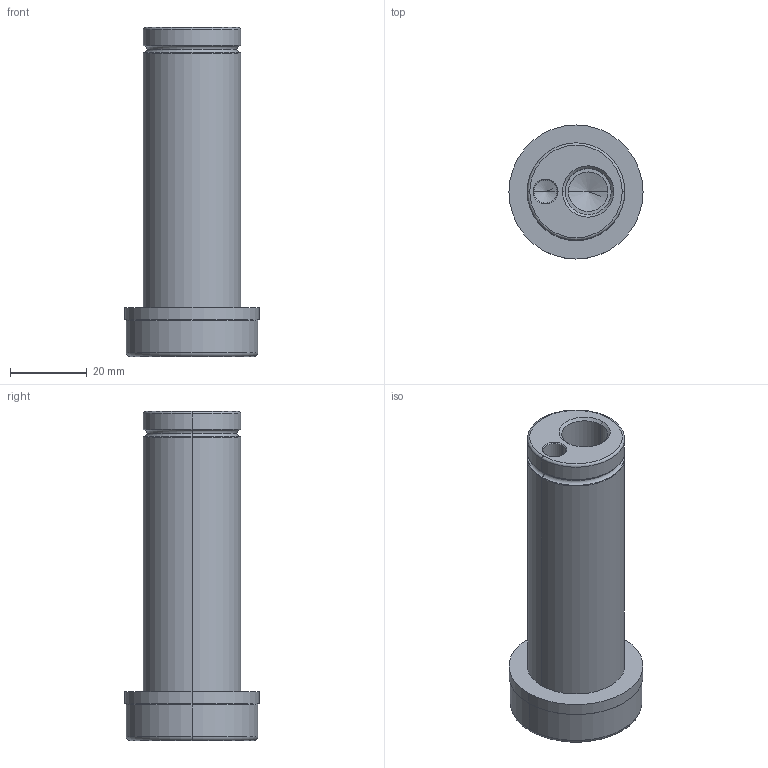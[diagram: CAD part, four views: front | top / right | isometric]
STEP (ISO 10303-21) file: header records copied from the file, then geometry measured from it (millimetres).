
FILE_DESCRIPTION (( 'STEP AP214' ), '1' );
FILE_NAME ('GK95-M-3-GuidePin.stp', '2010-10-18T15:04:42', ( ' ' ), ( '' ), 'SwSTEP 2.0', 'SolidWorks 2010', '' );
FILE_SCHEMA (( 'AUTOMOTIVE_DESIGN' ));
Length unit declared in the file: inch
Products named in the file (1): GK95-M-3-GuidePin
Bounding box: 34.92 x 34.92 x 85.72 mm (x, y, z)
Volume: 44375.6 mm3; surface area: 11914.3 mm2
Topology: 2 solids, 2 shells, 46 faces, 94 edges, 52 vertices
Faces by surface type: torus 16, cylinder 16, cone 8, plane 6
Entity records: 1295 total; most frequent: DIRECTION 250, CARTESIAN_POINT 189, ORIENTED_EDGE 180, AXIS2_PLACEMENT_3D 113, EDGE_CURVE 90, CIRCLE 66, VERTEX_POINT 52, EDGE_LOOP 52
